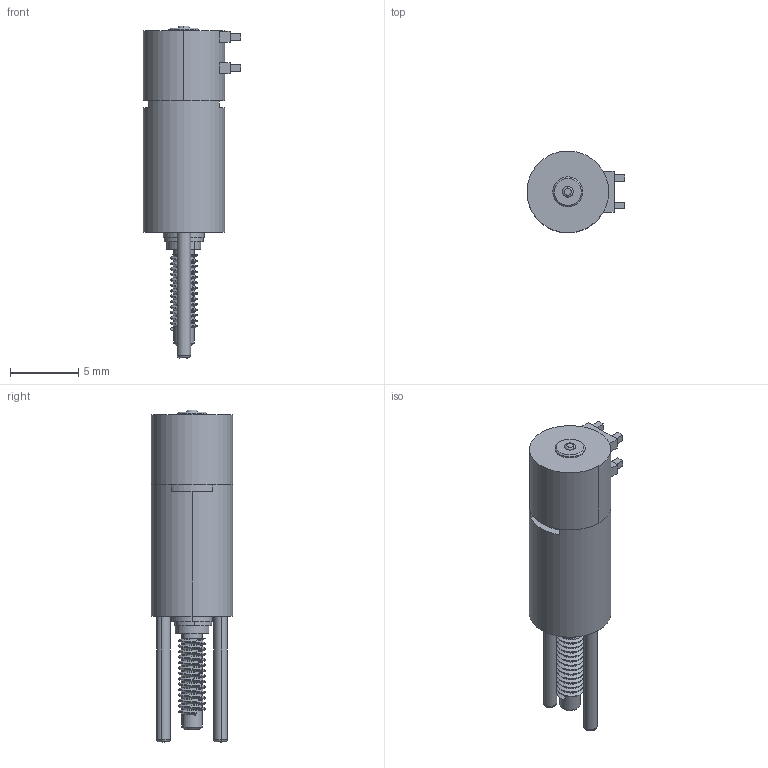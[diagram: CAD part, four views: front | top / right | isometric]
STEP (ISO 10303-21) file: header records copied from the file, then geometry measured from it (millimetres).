
FILE_DESCRIPTION (( 'STEP AP203' ), '1' );
FILE_NAME ('ƒÓ6L_MUED01-20141216.STEP', '2014-12-16T08:44:10', ( '' ), ( '' ), 'SwSTEP 2.0', 'SolidWorks 2013', '' );
FILE_SCHEMA (( 'CONFIG_CONTROL_DESIGN' ));
Length unit declared in the file: millimetre
Products named in the file (1): 冇6L_MUED01-20141216
Bounding box: 7.2 x 6 x 24.4 mm (x, y, z)
Volume: 447.2 mm3; surface area: 867.6 mm2
Topology: 6 solids, 6 shells, 195 faces, 471 edges, 310 vertices
Faces by surface type: cylinder 111, plane 68, torus 10, cone 4, bspline 2
Entity records: 6822 total; most frequent: CARTESIAN_POINT 2393, ORIENTED_EDGE 942, DIRECTION 887, EDGE_CURVE 471, AXIS2_PLACEMENT_3D 342, VERTEX_POINT 310, EDGE_LOOP 219, LINE 203
